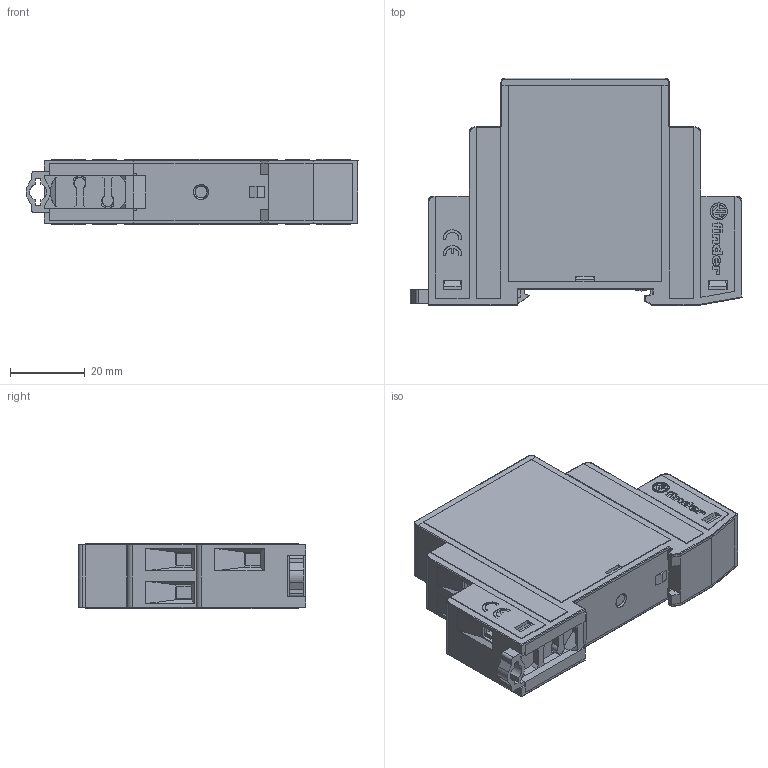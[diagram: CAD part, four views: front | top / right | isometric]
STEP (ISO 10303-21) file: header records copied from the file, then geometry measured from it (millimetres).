
FILE_DESCRIPTION(('STEP AP214'),'2;1');
FILE_NAME('80_61---nuovo_ok.stp','2011-09-12T08:41:30',(''),(''),'2007.1.106','THINKDESIGN','');
FILE_SCHEMA(('AUTOMOTIVE_DESIGN'));
Products named in the file (1): None
Bounding box: 88.85 x 60.8 x 17.5 mm (x, y, z)
Surface area: 19110.8 mm2 (no closed solid volume)
Topology: 0 solids, 0 shells, 1144 faces, 6966 edges, 6962 vertices
Faces by surface type: plane 906, cylinder 121, bspline 117
Full cylindrical faces by diameter (mm): 3 x7, 5 x6
Entity records: 70693 total; most frequent: CARTESIAN_POINT 21586, DIRECTION 8421, COMPOSITE_CURVE_SEGMENT 6966, TRIMMED_CURVE 6123, VECTOR 5921, LINE 5921, AXIS2_PLACEMENT_3D 1250, OUTER_BOUNDARY_CURVE 1144
